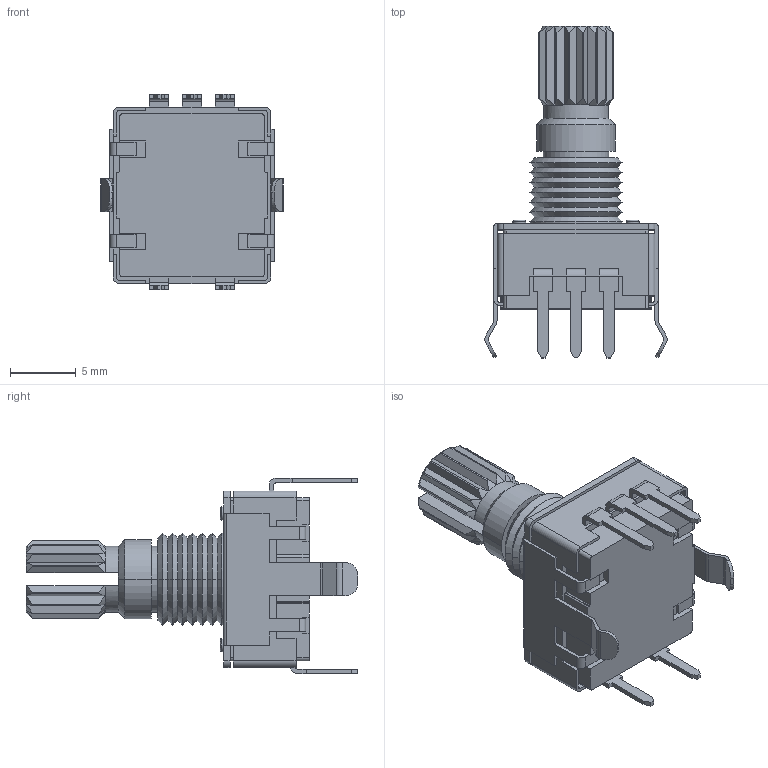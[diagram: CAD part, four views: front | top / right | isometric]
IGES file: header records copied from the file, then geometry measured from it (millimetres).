
Start section:  PTC IGES file: pec11r-4215k_l13-8_w12-4_h21-5.igs
Global section: file name: pec11r-4215k_l13-8_w12-4_h21-5.igs; native system: Pro/ENGINEER by Parametric Technology Corporation; preprocessor: 2004440; author: Dragos; organization: Unknown; date: 190115.204942; units: millimetre
Bounding box: 13.86 x 25.2 x 14.85 mm (x, y, z)
Volume: 1400.9 mm3; surface area: 1381.7 mm2
Topology: 1 solids, 1 shells, 413 faces, 1131 edges, 732 vertices
Faces by surface type: bspline 253, revolution 160
